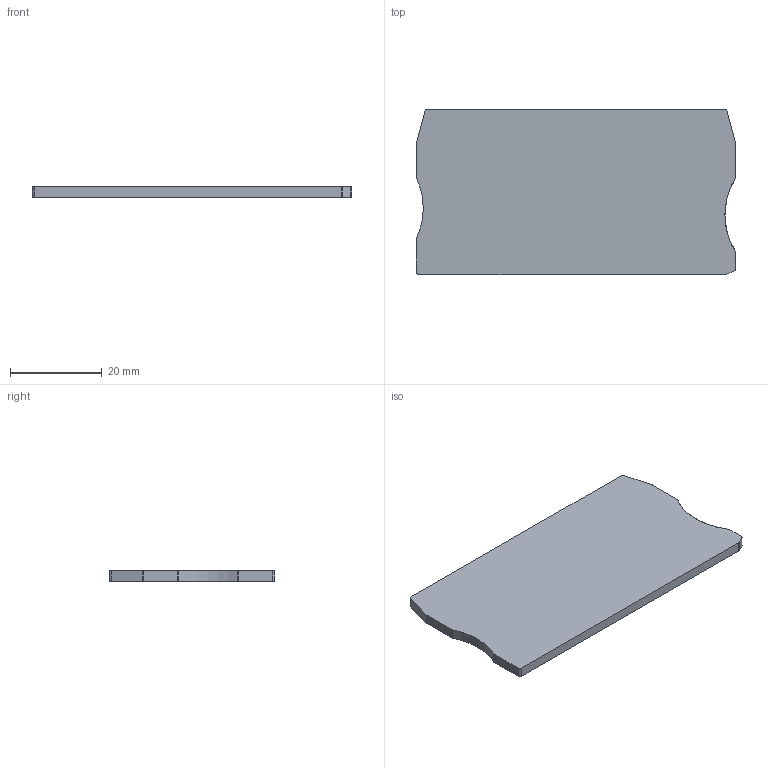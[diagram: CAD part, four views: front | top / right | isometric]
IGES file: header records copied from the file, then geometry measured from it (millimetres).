
Global section: file name: 3030433_d_st6.igs; native system: OneSpace Designer 3D IGES; preprocessor: 11.50A  18-Jul-2002; date: 20040204.075306; units: millimetre
Bounding box: 69.5 x 36 x 2.2 mm (x, y, z)
Surface area: 5357.7 mm2 (no closed solid volume)
Topology: 0 solids, 0 shells, 24 faces, 188 edges, 188 vertices
Faces by surface type: bspline 24
